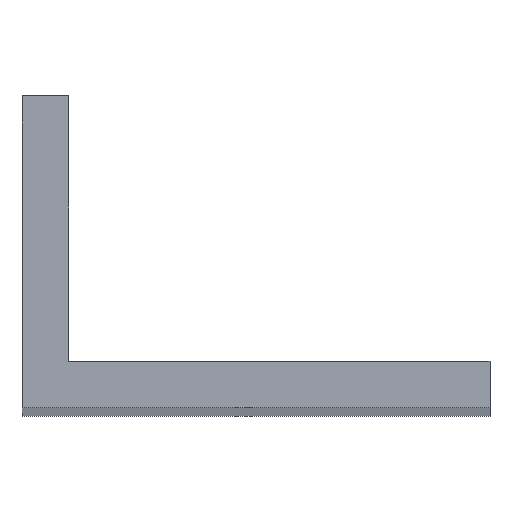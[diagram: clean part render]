
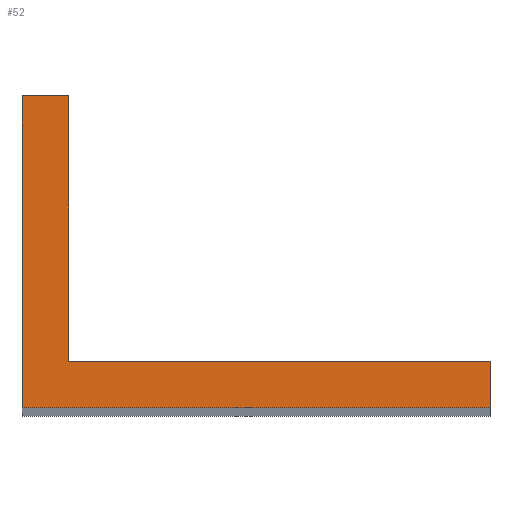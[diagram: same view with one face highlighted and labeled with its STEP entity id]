
A CAD part, top view. The second image highlights one B-rep face of the part: STEP entity #52.
In plain terms, the highlighted planar face has unit normal (0, 0, 1).
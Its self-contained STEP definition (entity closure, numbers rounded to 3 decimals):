
#1 = CARTESIAN_POINT ( 'NONE',  ( -3., -3., 150. ) ) ;
#2 = CARTESIAN_POINT ( 'NONE',  ( -3., 17., 150. ) ) ;
#3 = CARTESIAN_POINT ( 'NONE',  ( 0., 0., 150. ) ) ;
#4 = CARTESIAN_POINT ( 'NONE',  ( 0., 17., 150. ) ) ;
#11 = EDGE_CURVE ( 'NONE', #193, #191, #160, .T. ) ;
#16 = VECTOR ( 'NONE', #138, 1000. ) ;
#21 = CARTESIAN_POINT ( 'NONE',  ( 27., -3., 150. ) ) ;
#27 = VECTOR ( 'NONE', #142, 1000. ) ;
#28 = EDGE_CURVE ( 'NONE', #191, #171, #144, .T. ) ;
#29 = EDGE_CURVE ( 'NONE', #171, #175, #141, .T. ) ;
#31 = AXIS2_PLACEMENT_3D ( 'NONE', #117, #116, #115 ) ;
#33 = FACE_OUTER_BOUND ( 'NONE', #192, .T. ) ;
#34 = VECTOR ( 'NONE', #124, 1000. ) ;
#35 = EDGE_CURVE ( 'NONE', #179, #193, #128, .T. ) ;
#39 = DIRECTION ( 'NONE',  ( 0., 1., 0. ) ) ;
#42 = CARTESIAN_POINT ( 'NONE',  ( 0., 0., 150. ) ) ;
#44 = LINE ( 'NONE', #42, #281 ) ;
#52 = ADVANCED_FACE ( 'NONE', ( #33 ), #119, .F. ) ;
#59 = CARTESIAN_POINT ( 'NONE',  ( 27., 0., 150. ) ) ;
#73 = DIRECTION ( 'NONE',  ( -1., 0., 0. ) ) ;
#75 = CARTESIAN_POINT ( 'NONE',  ( 0., 17., 150. ) ) ;
#77 = LINE ( 'NONE', #75, #110 ) ;
#110 = VECTOR ( 'NONE', #73, 1000. ) ;
#115 = DIRECTION ( 'NONE',  ( -1., 0., 0. ) ) ;
#116 = DIRECTION ( 'NONE',  ( 0., 0., -1. ) ) ;
#117 = CARTESIAN_POINT ( 'NONE',  ( 0., 0., 150. ) ) ;
#119 = PLANE ( 'NONE',  #31 ) ;
#124 = DIRECTION ( 'NONE',  ( 0., -1., 0. ) ) ;
#125 = CARTESIAN_POINT ( 'NONE',  ( -3., 17., 150. ) ) ;
#128 = LINE ( 'NONE', #125, #34 ) ;
#129 = EDGE_CURVE ( 'NONE', #190, #179, #77, .T. ) ;
#138 = DIRECTION ( 'NONE',  ( -1., 0., 0. ) ) ;
#139 = VECTOR ( 'NONE', #158, 1000. ) ;
#140 = CARTESIAN_POINT ( 'NONE',  ( 27., 0., 150. ) ) ;
#141 = LINE ( 'NONE', #140, #16 ) ;
#142 = DIRECTION ( 'NONE',  ( 0., 1., 0. ) ) ;
#143 = CARTESIAN_POINT ( 'NONE',  ( 27., -3., 150. ) ) ;
#144 = LINE ( 'NONE', #143, #27 ) ;
#158 = DIRECTION ( 'NONE',  ( 1., 0., 0. ) ) ;
#159 = CARTESIAN_POINT ( 'NONE',  ( -3., -3., 150. ) ) ;
#160 = LINE ( 'NONE', #159, #139 ) ;
#168 = ORIENTED_EDGE ( 'NONE', *, *, #11, .T. ) ;
#171 = VERTEX_POINT ( 'NONE', #59 ) ;
#175 = VERTEX_POINT ( 'NONE', #3 ) ;
#179 = VERTEX_POINT ( 'NONE', #2 ) ;
#190 = VERTEX_POINT ( 'NONE', #4 ) ;
#191 = VERTEX_POINT ( 'NONE', #21 ) ;
#192 = EDGE_LOOP ( 'NONE', ( #231, #217, #201, #212, #168, #224 ) ) ;
#193 = VERTEX_POINT ( 'NONE', #1 ) ;
#201 = ORIENTED_EDGE ( 'NONE', *, *, #129, .T. ) ;
#212 = ORIENTED_EDGE ( 'NONE', *, *, #35, .T. ) ;
#214 = EDGE_CURVE ( 'NONE', #175, #190, #44, .T. ) ;
#217 = ORIENTED_EDGE ( 'NONE', *, *, #214, .T. ) ;
#224 = ORIENTED_EDGE ( 'NONE', *, *, #28, .T. ) ;
#231 = ORIENTED_EDGE ( 'NONE', *, *, #29, .T. ) ;
#281 = VECTOR ( 'NONE', #39, 1000. ) ;
